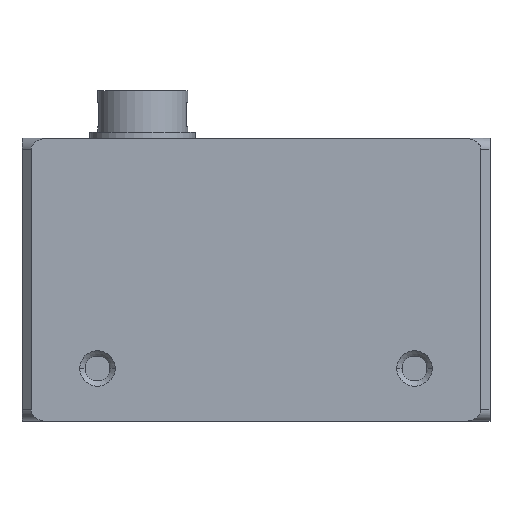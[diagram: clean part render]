
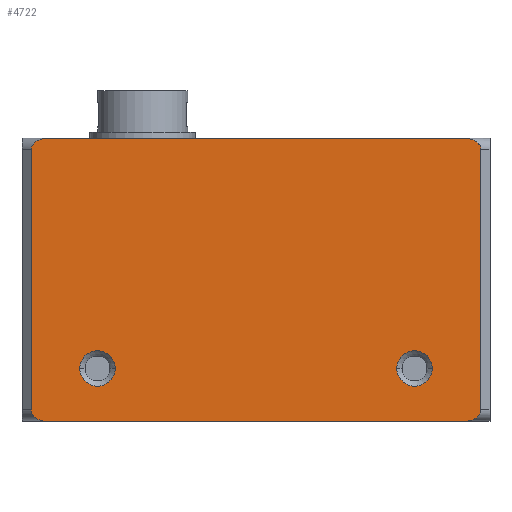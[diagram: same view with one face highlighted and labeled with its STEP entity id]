
A CAD part, front view. The second image highlights one B-rep face of the part: STEP entity #4722.
In plain terms, the highlighted planar face has unit normal (0, -1, 0).
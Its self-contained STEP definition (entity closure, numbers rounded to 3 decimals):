
#29=DIRECTION('',(1.,0.,0.));
#30=VECTOR('',#29,55.357);
#31=CARTESIAN_POINT('',(-27.679,-31.,-12.6));
#32=LINE('',#31,#30);
#133=CARTESIAN_POINT('',(27.679,-31.,-12.6));
#134=CARTESIAN_POINT('',(27.98,-31.,-12.6));
#135=CARTESIAN_POINT('',(28.5,-31.,-12.516));
#136=CARTESIAN_POINT('',(29.126,-31.,-12.237));
#137=CARTESIAN_POINT('',(29.526,-31.,-11.882));
#138=CARTESIAN_POINT('',(29.743,-31.,-11.495));
#139=CARTESIAN_POINT('',(29.8,-31.,-11.251));
#140=CARTESIAN_POINT('',(29.8,-31.,-11.1));
#155=DIRECTION('',(1.,0.,0.));
#156=VECTOR('',#155,55.357);
#157=CARTESIAN_POINT('',(-27.679,-31.,24.9));
#158=LINE('',#157,#156);
#159=DIRECTION('',(0.,0.,-1.));
#160=VECTOR('',#159,34.5);
#161=CARTESIAN_POINT('',(29.8,-31.,23.4));
#162=LINE('',#161,#160);
#163=CARTESIAN_POINT('',(21.,-31.,-5.6));
#164=DIRECTION('',(0.,-1.,0.));
#165=DIRECTION('',(1.,0.,0.));
#166=AXIS2_PLACEMENT_3D('',#163,#164,#165);
#168=CARTESIAN_POINT('',(21.,-31.,-5.6));
#169=DIRECTION('',(0.,-1.,0.));
#170=DIRECTION('',(0.,0.,1.));
#171=AXIS2_PLACEMENT_3D('',#168,#169,#170);
#173=CARTESIAN_POINT('',(21.,-31.,-5.6));
#174=DIRECTION('',(0.,-1.,0.));
#175=DIRECTION('',(-1.,0.,0.));
#176=AXIS2_PLACEMENT_3D('',#173,#174,#175);
#178=CARTESIAN_POINT('',(21.,-31.,-5.6));
#179=DIRECTION('',(0.,-1.,0.));
#180=DIRECTION('',(0.,0.,-1.));
#181=AXIS2_PLACEMENT_3D('',#178,#179,#180);
#183=CARTESIAN_POINT('',(-21.,-31.,-5.6));
#184=DIRECTION('',(0.,-1.,0.));
#185=DIRECTION('',(1.,0.,0.));
#186=AXIS2_PLACEMENT_3D('',#183,#184,#185);
#188=CARTESIAN_POINT('',(-21.,-31.,-5.6));
#189=DIRECTION('',(0.,-1.,0.));
#190=DIRECTION('',(0.,0.,1.));
#191=AXIS2_PLACEMENT_3D('',#188,#189,#190);
#193=CARTESIAN_POINT('',(-21.,-31.,-5.6));
#194=DIRECTION('',(0.,-1.,0.));
#195=DIRECTION('',(-1.,0.,0.));
#196=AXIS2_PLACEMENT_3D('',#193,#194,#195);
#198=CARTESIAN_POINT('',(-21.,-31.,-5.6));
#199=DIRECTION('',(0.,-1.,0.));
#200=DIRECTION('',(0.,0.,-1.));
#201=AXIS2_PLACEMENT_3D('',#198,#199,#200);
#216=CARTESIAN_POINT('',(-29.8,-31.,-11.1));
#217=CARTESIAN_POINT('',(-29.8,-31.,-11.251));
#218=CARTESIAN_POINT('',(-29.743,-31.,-11.495));
#219=CARTESIAN_POINT('',(-29.526,-31.,-11.882));
#220=CARTESIAN_POINT('',(-29.126,-31.,-12.237));
#221=CARTESIAN_POINT('',(-28.5,-31.,-12.516));
#222=CARTESIAN_POINT('',(-27.98,-31.,-12.6));
#223=CARTESIAN_POINT('',(-27.679,-31.,-12.6));
#652=CARTESIAN_POINT('',(29.8,-31.,23.4));
#653=CARTESIAN_POINT('',(29.8,-31.,23.551));
#654=CARTESIAN_POINT('',(29.743,-31.,23.795));
#655=CARTESIAN_POINT('',(29.526,-31.,24.182));
#656=CARTESIAN_POINT('',(29.126,-31.,24.537));
#657=CARTESIAN_POINT('',(28.5,-31.,24.816));
#658=CARTESIAN_POINT('',(27.98,-31.,24.9));
#659=CARTESIAN_POINT('',(27.679,-31.,24.9));
#753=CARTESIAN_POINT('',(-27.679,-31.,24.9));
#754=CARTESIAN_POINT('',(-27.98,-31.,24.9));
#755=CARTESIAN_POINT('',(-28.5,-31.,24.816));
#756=CARTESIAN_POINT('',(-29.126,-31.,24.537));
#757=CARTESIAN_POINT('',(-29.526,-31.,24.182));
#758=CARTESIAN_POINT('',(-29.743,-31.,23.795));
#759=CARTESIAN_POINT('',(-29.8,-31.,23.551));
#760=CARTESIAN_POINT('',(-29.8,-31.,23.4));
#775=DIRECTION('',(0.,0.,-1.));
#776=VECTOR('',#775,34.5);
#777=CARTESIAN_POINT('',(-29.8,-31.,23.4));
#778=LINE('',#777,#776);
#3557=CARTESIAN_POINT('',(27.679,-31.,-12.6));
#3559=VERTEX_POINT('',#3557);
#3571=CARTESIAN_POINT('',(-27.679,-31.,-12.6));
#3572=VERTEX_POINT('',#3571);
#3613=VERTEX_POINT('',#140);
#3616=VERTEX_POINT('',#216);
#3617=CARTESIAN_POINT('',(-29.8,-31.,23.4));
#3618=VERTEX_POINT('',#3617);
#3619=VERTEX_POINT('',#753);
#3620=CARTESIAN_POINT('',(27.679,-31.,24.9));
#3621=VERTEX_POINT('',#3620);
#3622=VERTEX_POINT('',#652);
#3623=CARTESIAN_POINT('',(21.,-31.,-3.25));
#3624=CARTESIAN_POINT('',(18.65,-31.,-5.6));
#3625=VERTEX_POINT('',#3623);
#3626=VERTEX_POINT('',#3624);
#3627=CARTESIAN_POINT('',(23.35,-31.,-5.6));
#3628=VERTEX_POINT('',#3627);
#3629=CARTESIAN_POINT('',(21.,-31.,-7.95));
#3630=VERTEX_POINT('',#3629);
#3631=CARTESIAN_POINT('',(-21.,-31.,-3.25));
#3632=CARTESIAN_POINT('',(-23.35,-31.,-5.6));
#3633=VERTEX_POINT('',#3631);
#3634=VERTEX_POINT('',#3632);
#3635=CARTESIAN_POINT('',(-18.65,-31.,-5.6));
#3636=VERTEX_POINT('',#3635);
#3637=CARTESIAN_POINT('',(-21.,-31.,-7.95));
#3638=VERTEX_POINT('',#3637);
#4681=CARTESIAN_POINT('',(31.,-31.,-12.6));
#4682=DIRECTION('',(0.,-1.,0.));
#4683=DIRECTION('',(-1.,0.,0.));
#4684=AXIS2_PLACEMENT_3D('',#4681,#4682,#4683);
#4685=PLANE('',#4684);
#4686=ORIENTED_EDGE('',*,*,#4671,.F.);
#4687=ORIENTED_EDGE('',*,*,#4611,.F.);
#4689=ORIENTED_EDGE('',*,*,#4688,.F.);
#4691=ORIENTED_EDGE('',*,*,#4690,.F.);
#4693=ORIENTED_EDGE('',*,*,#4692,.F.);
#4695=ORIENTED_EDGE('',*,*,#4694,.T.);
#4697=ORIENTED_EDGE('',*,*,#4696,.F.);
#4699=ORIENTED_EDGE('',*,*,#4698,.T.);
#4700=EDGE_LOOP('',(#4686,#4687,#4689,#4691,#4693,#4695,#4697,#4699));
#4701=FACE_OUTER_BOUND('',#4700,.F.);
#4703=ORIENTED_EDGE('',*,*,#4702,.T.);
#4705=ORIENTED_EDGE('',*,*,#4704,.T.);
#4707=ORIENTED_EDGE('',*,*,#4706,.T.);
#4709=ORIENTED_EDGE('',*,*,#4708,.T.);
#4710=EDGE_LOOP('',(#4703,#4705,#4707,#4709));
#4711=FACE_BOUND('',#4710,.F.);
#4713=ORIENTED_EDGE('',*,*,#4712,.T.);
#4715=ORIENTED_EDGE('',*,*,#4714,.T.);
#4717=ORIENTED_EDGE('',*,*,#4716,.T.);
#4719=ORIENTED_EDGE('',*,*,#4718,.T.);
#4720=EDGE_LOOP('',(#4713,#4715,#4717,#4719));
#4721=FACE_BOUND('',#4720,.F.);
#4722=ADVANCED_FACE('',(#4701,#4711,#4721),#4685,.T.);
#141=B_SPLINE_CURVE_WITH_KNOTS('',3,(#133,#134,#135,#136,#137,#138,#139,#140),
.UNSPECIFIED.,.F.,.F.,(4,1,1,1,1,4),(0.,0.25,0.5,0.75,0.875,1.),
.UNSPECIFIED.);
#167=CIRCLE('',#166,2.35);
#172=CIRCLE('',#171,2.35);
#177=CIRCLE('',#176,2.35);
#182=CIRCLE('',#181,2.35);
#187=CIRCLE('',#186,2.35);
#192=CIRCLE('',#191,2.35);
#197=CIRCLE('',#196,2.35);
#202=CIRCLE('',#201,2.35);
#224=B_SPLINE_CURVE_WITH_KNOTS('',3,(#216,#217,#218,#219,#220,#221,#222,#223),
.UNSPECIFIED.,.F.,.F.,(4,1,1,1,1,4),(0.,0.125,0.25,0.5,0.75,1.),
.UNSPECIFIED.);
#660=B_SPLINE_CURVE_WITH_KNOTS('',3,(#652,#653,#654,#655,#656,#657,#658,#659),
.UNSPECIFIED.,.F.,.F.,(4,1,1,1,1,4),(0.,0.125,0.25,0.5,0.75,1.),
.UNSPECIFIED.);
#761=B_SPLINE_CURVE_WITH_KNOTS('',3,(#753,#754,#755,#756,#757,#758,#759,#760),
.UNSPECIFIED.,.F.,.F.,(4,1,1,1,1,4),(0.,0.25,0.5,0.75,0.875,1.),
.UNSPECIFIED.);
#4611=EDGE_CURVE('',#3572,#3559,#32,.T.);
#4671=EDGE_CURVE('',#3559,#3613,#141,.T.);
#4688=EDGE_CURVE('',#3616,#3572,#224,.T.);
#4690=EDGE_CURVE('',#3618,#3616,#778,.T.);
#4692=EDGE_CURVE('',#3619,#3618,#761,.T.);
#4694=EDGE_CURVE('',#3619,#3621,#158,.T.);
#4696=EDGE_CURVE('',#3622,#3621,#660,.T.);
#4698=EDGE_CURVE('',#3622,#3613,#162,.T.);
#4702=EDGE_CURVE('',#3628,#3625,#167,.T.);
#4704=EDGE_CURVE('',#3625,#3626,#172,.T.);
#4706=EDGE_CURVE('',#3626,#3630,#177,.T.);
#4708=EDGE_CURVE('',#3630,#3628,#182,.T.);
#4712=EDGE_CURVE('',#3636,#3633,#187,.T.);
#4714=EDGE_CURVE('',#3633,#3634,#192,.T.);
#4716=EDGE_CURVE('',#3634,#3638,#197,.T.);
#4718=EDGE_CURVE('',#3638,#3636,#202,.T.);
